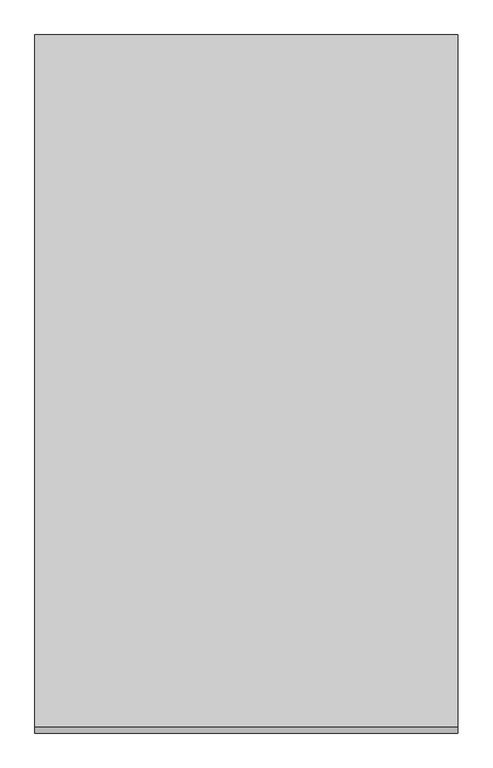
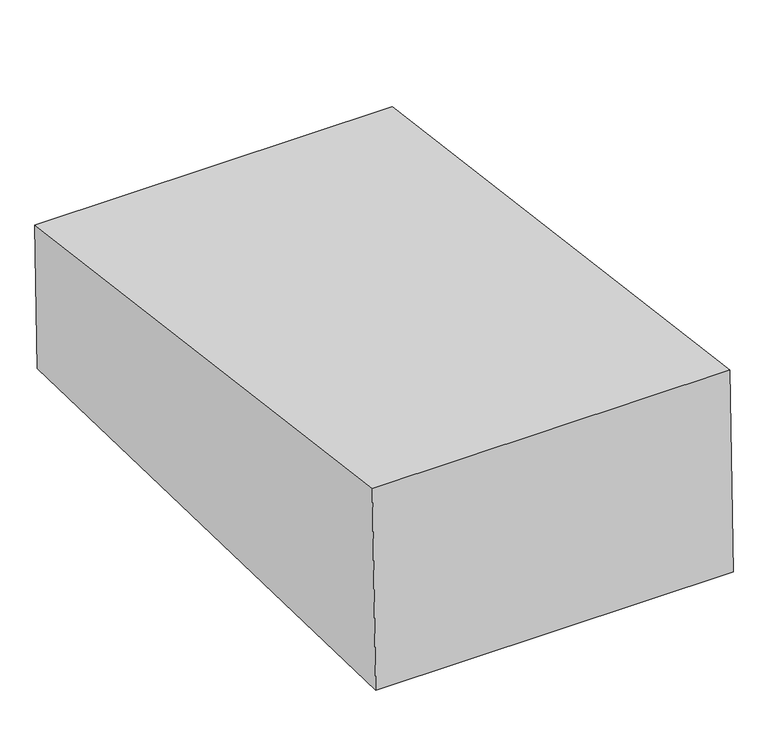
"""IFC4 building model written with IfcOpenShell, lengths in millimetres: proxy geometry, Excavation FamilySP : Excavation FamilySP."""

from ifc_helpers import new_model, si_unit, frame, origin, place, context, project, spatial, polyline, outline, extrude, source, transform, mapped, element, save


def generic_models_83ac6ffc(model_context):
    return source(origin(), model_context, "Body", "SweptSolid", [
        extrude(outline(polyline([(33.5385366, 1276.085458), (0.0, 0.0), (-4998.2739957, 131.3664335), (-4951.1596798, 1923.9876802), (33.5385366, 1276.085458)])), frame((-1524.0, 0.0, 0.0), z_axis=(1.0, 0.0, 0.0), x_axis=(0.0, 1.0, 0.0)), (0.0, 0.0, 1.0), 3048.0),
    ])


if __name__ == "__main__":
    model = new_model("IFC4")
    model_context = context("Model", 3, world=origin())
    ifc_project = project(units=[si_unit("LENGTHUNIT", "METRE", prefix="MILLI")], contexts=[model_context])
    site = spatial("IfcSite", under=ifc_project)
    building = spatial("IfcBuilding", under=site)
    placement = place(None, origin())
    generic_models_shape = generic_models_83ac6ffc(model_context)
    element("IfcBuildingElementProxy", 1, Name="Excavation FamilySP : Excavation FamilySP", ObjectType="Excavation FamilySP : Excavation FamilySP", at=placement, inside=building, context=model_context, shape_type="MappedRepresentation", body=[
        mapped(generic_models_shape, transform((0.0, 0.0, 0.0), x_axis=(1.0, 0.0, 0.0), y_axis=(0.0, 1.0, 0.0), z_axis=(0.0, 0.0, 1.0))),
    ])
    save(model, "model.ifc")
